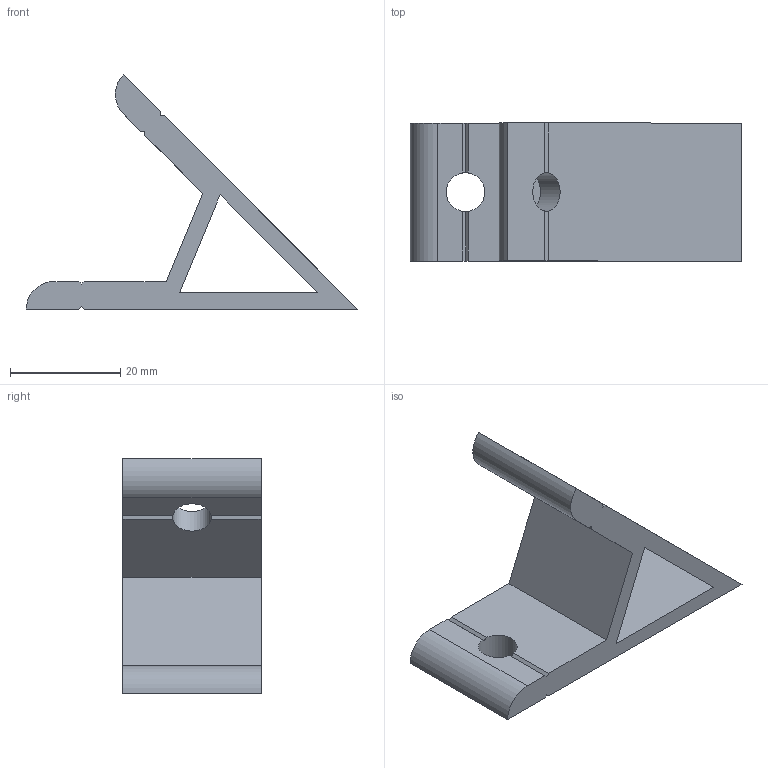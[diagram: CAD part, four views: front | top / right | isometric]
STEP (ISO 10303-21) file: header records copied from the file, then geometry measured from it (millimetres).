
FILE_DESCRIPTION(/* description */ ('Unknown'),/* implementation_level */ '2;1');
FILE_NAME(/* name */ 'AV2545',/* time_stamp */ '2026-09-17T13:25:42+08:00',/* author */ ('Unknown'),/* organization */ ('Unknown'),/* preprocessor_version */ 'ST-DEVELOPER v16.7',/* originating_system */ 'DEX',/* authorisation */ $);
FILE_SCHEMA (('AUTOMOTIVE_DESIGN {1 0 10303 214 3 1 1}'));
Length unit declared in the file: millimetre
Products named in the file (1): AV2545
Bounding box: 60 x 25 x 42.43 mm (x, y, z)
Volume: 11806.4 mm3; surface area: 7638.8 mm2
Topology: 1 solids, 1 shells, 34 faces, 104 edges, 68 vertices
Faces by surface type: plane 30, cylinder 4
Full cylindrical faces by diameter (mm): 7 x2
Entity records: 1196 total; most frequent: CARTESIAN_POINT 205, ORIENTED_EDGE 204, DIRECTION 200, EDGE_CURVE 102, LINE 74, VECTOR 74, VERTEX_POINT 68, AXIS2_PLACEMENT_3D 63
